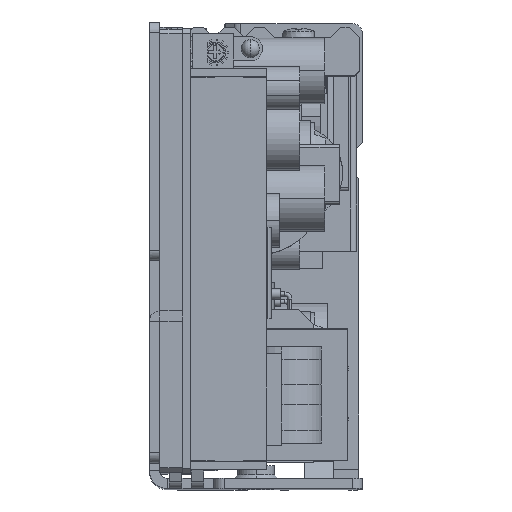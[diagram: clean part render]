
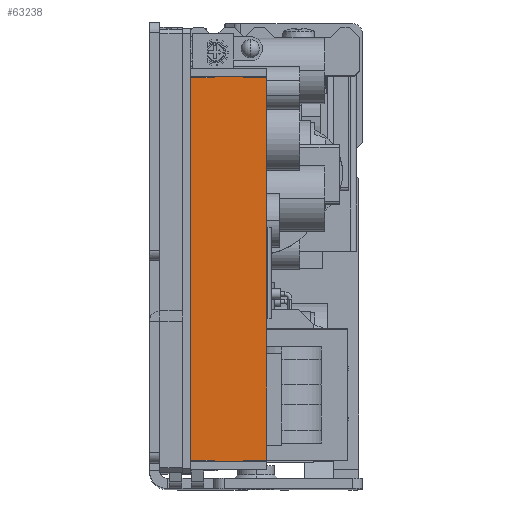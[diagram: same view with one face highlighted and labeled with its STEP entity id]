
A CAD part, top view. The second image highlights one B-rep face of the part: STEP entity #63238.
In plain terms, the highlighted planar face has unit normal (0, 0, 1).
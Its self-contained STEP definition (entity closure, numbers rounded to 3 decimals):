
#28758 = DIRECTION ( 'NONE',  ( 0., -1., 0. ) ) ;
#28759 = DIRECTION ( 'NONE',  ( 0., 0., 1. ) ) ;
#28760 = CARTESIAN_POINT ( 'NONE',  ( 18.45, 82.75, 206.5 ) ) ;
#28761 = AXIS2_PLACEMENT_3D ( 'NONE', #28760, #28759, #28758 ) ;
#28763 = PLANE ( 'NONE',  #28761 ) ;
#28778 = FACE_OUTER_BOUND ( 'NONE', #63246, .T. ) ;
#28790 = LINE ( 'NONE', #28836, #28835 ) ;
#28833 = CARTESIAN_POINT ( 'NONE',  ( 18.45, 3.75, 206.5 ) ) ;
#28834 = DIRECTION ( 'NONE',  ( 0., 1., 0. ) ) ;
#28835 = VECTOR ( 'NONE', #28834, 1000. ) ;
#28836 = CARTESIAN_POINT ( 'NONE',  ( 18.45, 3.75, 206.5 ) ) ;
#28863 = CARTESIAN_POINT ( 'NONE',  ( 18.45, 5.55, 206.5 ) ) ;
#28879 = CARTESIAN_POINT ( 'NONE',  ( 23.1, 5.55, 206.5 ) ) ;
#28887 = DIRECTION ( 'NONE',  ( 1., 0., 0. ) ) ;
#28888 = VECTOR ( 'NONE', #28887, 1000. ) ;
#28889 = CARTESIAN_POINT ( 'NONE',  ( 18.45, 5.55, 206.5 ) ) ;
#28890 = LINE ( 'NONE', #28889, #28888 ) ;
#28921 = DIRECTION ( 'NONE',  ( 0., 1., 0. ) ) ;
#28922 = VECTOR ( 'NONE', #28921, 1000. ) ;
#28923 = CARTESIAN_POINT ( 'NONE',  ( 23.1, 5.55, 206.5 ) ) ;
#28924 = LINE ( 'NONE', #28923, #28922 ) ;
#28946 = CARTESIAN_POINT ( 'NONE',  ( 23.1, 80.95, 206.5 ) ) ;
#28970 = DIRECTION ( 'NONE',  ( -1., 0., 0. ) ) ;
#28971 = VECTOR ( 'NONE', #28970, 1000. ) ;
#28972 = CARTESIAN_POINT ( 'NONE',  ( 23.1, 80.95, 206.5 ) ) ;
#28973 = LINE ( 'NONE', #28972, #28971 ) ;
#29018 = DIRECTION ( 'NONE',  ( 0., -1., 0. ) ) ;
#29019 = VECTOR ( 'NONE', #29018, 1000. ) ;
#29020 = CARTESIAN_POINT ( 'NONE',  ( 12.75, 82.75, 206.5 ) ) ;
#29021 = LINE ( 'NONE', #29020, #29019 ) ;
#29060 = CARTESIAN_POINT ( 'NONE',  ( 12.75, 80.95, 206.5 ) ) ;
#29078 = DIRECTION ( 'NONE',  ( 0., -1., 0. ) ) ;
#29079 = VECTOR ( 'NONE', #29078, 1000. ) ;
#29080 = CARTESIAN_POINT ( 'NONE',  ( 8.1, 80.95, 206.5 ) ) ;
#29081 = LINE ( 'NONE', #29080, #29079 ) ;
#29087 = CARTESIAN_POINT ( 'NONE',  ( 8.1, 80.95, 206.5 ) ) ;
#29092 = DIRECTION ( 'NONE',  ( -1., 0., 0. ) ) ;
#29093 = VECTOR ( 'NONE', #29092, 1000. ) ;
#29094 = CARTESIAN_POINT ( 'NONE',  ( 12.75, 80.95, 206.5 ) ) ;
#29095 = LINE ( 'NONE', #29094, #29093 ) ;
#29196 = CARTESIAN_POINT ( 'NONE',  ( 12.75, 3.75, 206.5 ) ) ;
#29227 = DIRECTION ( 'NONE',  ( 1., 0., 0. ) ) ;
#29228 = VECTOR ( 'NONE', #29227, 1000. ) ;
#29229 = CARTESIAN_POINT ( 'NONE',  ( 12.75, 3.75, 206.5 ) ) ;
#29230 = LINE ( 'NONE', #29229, #29228 ) ;
#29345 = CARTESIAN_POINT ( 'NONE',  ( 18.45, 80.95, 206.5 ) ) ;
#29370 = DIRECTION ( 'NONE',  ( 0., 1., 0. ) ) ;
#29371 = VECTOR ( 'NONE', #29370, 1000. ) ;
#29372 = CARTESIAN_POINT ( 'NONE',  ( 18.45, 80.95, 206.5 ) ) ;
#29373 = LINE ( 'NONE', #29372, #29371 ) ;
#29386 = CARTESIAN_POINT ( 'NONE',  ( 12.75, 82.75, 206.5 ) ) ;
#29391 = DIRECTION ( 'NONE',  ( -1., 0., 0. ) ) ;
#29392 = VECTOR ( 'NONE', #29391, 1000. ) ;
#29393 = CARTESIAN_POINT ( 'NONE',  ( 18.45, 82.75, 206.5 ) ) ;
#29394 = LINE ( 'NONE', #29393, #29392 ) ;
#29401 = CARTESIAN_POINT ( 'NONE',  ( 18.45, 82.75, 206.5 ) ) ;
#29493 = CARTESIAN_POINT ( 'NONE',  ( 8.1, 5.55, 206.5 ) ) ;
#29535 = DIRECTION ( 'NONE',  ( 1., 0., 0. ) ) ;
#29536 = VECTOR ( 'NONE', #29535, 1000. ) ;
#29537 = CARTESIAN_POINT ( 'NONE',  ( 8.1, 5.55, 206.5 ) ) ;
#29538 = LINE ( 'NONE', #29537, #29536 ) ;
#29583 = CARTESIAN_POINT ( 'NONE',  ( 12.75, 5.55, 206.5 ) ) ;
#29588 = LINE ( 'NONE', #29647, #29646 ) ;
#29645 = DIRECTION ( 'NONE',  ( 0., -1., 0. ) ) ;
#29646 = VECTOR ( 'NONE', #29645, 1000. ) ;
#29647 = CARTESIAN_POINT ( 'NONE',  ( 12.75, 5.55, 206.5 ) ) ;
#63238 = ADVANCED_FACE ( 'NONE', ( #28778 ), #28763, .T. ) ;
#63246 = EDGE_LOOP ( 'NONE', ( #63253, #63290, #63314, #63330, #63538, #63549, #63342, #63380, #63403, #63643, #63673, #63466 ) ) ;
#63253 = ORIENTED_EDGE ( 'NONE', *, *, #63259, .T. ) ;
#63259 = EDGE_CURVE ( 'NONE', #63265, #63276, #28790, .T. ) ;
#63265 = VERTEX_POINT ( 'NONE', #28833 ) ;
#63276 = VERTEX_POINT ( 'NONE', #28863 ) ;
#63290 = ORIENTED_EDGE ( 'NONE', *, *, #63296, .T. ) ;
#63296 = EDGE_CURVE ( 'NONE', #63276, #63302, #28890, .T. ) ;
#63302 = VERTEX_POINT ( 'NONE', #28879 ) ;
#63314 = ORIENTED_EDGE ( 'NONE', *, *, #63316, .T. ) ;
#63316 = EDGE_CURVE ( 'NONE', #63302, #63322, #28924, .T. ) ;
#63322 = VERTEX_POINT ( 'NONE', #28946 ) ;
#63330 = ORIENTED_EDGE ( 'NONE', *, *, #63334, .T. ) ;
#63334 = EDGE_CURVE ( 'NONE', #63322, #63530, #28973, .T. ) ;
#63342 = ORIENTED_EDGE ( 'NONE', *, *, #63352, .T. ) ;
#63352 = EDGE_CURVE ( 'NONE', #63561, #63361, #29021, .T. ) ;
#63361 = VERTEX_POINT ( 'NONE', #29060 ) ;
#63380 = ORIENTED_EDGE ( 'NONE', *, *, #63390, .T. ) ;
#63390 = EDGE_CURVE ( 'NONE', #63361, #63393, #29095, .T. ) ;
#63393 = VERTEX_POINT ( 'NONE', #29087 ) ;
#63403 = ORIENTED_EDGE ( 'NONE', *, *, #63406, .T. ) ;
#63406 = EDGE_CURVE ( 'NONE', #63393, #63629, #29081, .T. ) ;
#63453 = VERTEX_POINT ( 'NONE', #29196 ) ;
#63466 = ORIENTED_EDGE ( 'NONE', *, *, #63472, .T. ) ;
#63472 = EDGE_CURVE ( 'NONE', #63453, #63265, #29230, .T. ) ;
#63530 = VERTEX_POINT ( 'NONE', #29345 ) ;
#63538 = ORIENTED_EDGE ( 'NONE', *, *, #63541, .T. ) ;
#63541 = EDGE_CURVE ( 'NONE', #63530, #63543, #29373, .T. ) ;
#63543 = VERTEX_POINT ( 'NONE', #29401 ) ;
#63549 = ORIENTED_EDGE ( 'NONE', *, *, #63559, .T. ) ;
#63559 = EDGE_CURVE ( 'NONE', #63543, #63561, #29394, .T. ) ;
#63561 = VERTEX_POINT ( 'NONE', #29386 ) ;
#63629 = VERTEX_POINT ( 'NONE', #29493 ) ;
#63643 = ORIENTED_EDGE ( 'NONE', *, *, #63655, .T. ) ;
#63655 = EDGE_CURVE ( 'NONE', #63629, #63657, #29538, .T. ) ;
#63657 = VERTEX_POINT ( 'NONE', #29583 ) ;
#63673 = ORIENTED_EDGE ( 'NONE', *, *, #63680, .T. ) ;
#63680 = EDGE_CURVE ( 'NONE', #63657, #63453, #29588, .T. ) ;
